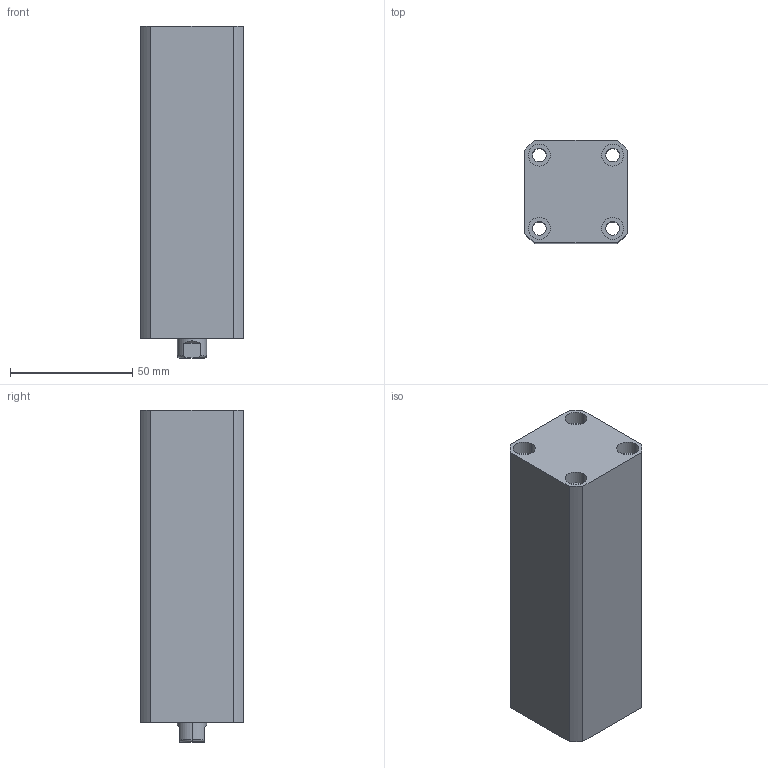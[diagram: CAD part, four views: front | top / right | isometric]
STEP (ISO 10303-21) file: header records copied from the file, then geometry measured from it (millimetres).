
FILE_DESCRIPTION (( 'STEP AP214' ), '1' );
FILE_NAME ('chtb-sd20x85n_asm.STEP', '2018-04-26T12:35:07', ( 'Windows' ), ( 'Microsoft' ), 'SwSTEP 2.0', 'SolidWorks 2015', '' );
FILE_SCHEMA (( 'AUTOMOTIVE_DESIGN' ));
Length unit declared in the file: millimetre
Products named in the file (4): QG; CHTB-SD20X85NHSG; CHTB-SD20X85NBT; chtb-sd20x85n_asm
Assembly tree (3 placements, depth 2):
  chtb-sd20x85n_asm
    CHTB-SD20X85NBT
    CHTB-SD20X85NHSG
    QG
Bounding box: 42 x 42 x 136 mm (x, y, z)
Volume: 187795.2 mm3; surface area: 52667.6 mm2
Topology: 3 solids, 3 shells, 192 faces, 499 edges, 330 vertices
Faces by surface type: cylinder 102, plane 36, torus 25, bspline 19, cone 10
Entity records: 10524 total; most frequent: CARTESIAN_POINT 5851, ORIENTED_EDGE 986, DIRECTION 903, EDGE_CURVE 493, AXIS2_PLACEMENT_3D 385, VERTEX_POINT 330, EDGE_LOOP 229, CIRCLE 206
